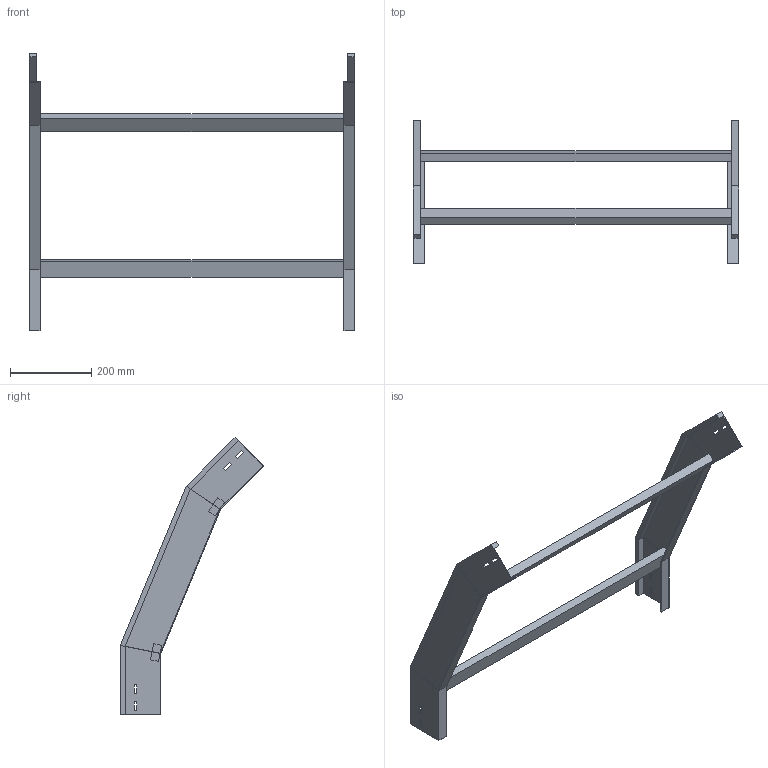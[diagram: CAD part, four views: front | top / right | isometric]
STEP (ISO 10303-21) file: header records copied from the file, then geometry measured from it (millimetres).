
FILE_DESCRIPTION (( 'STEP AP214' ), '1' );
FILE_NAME ('34B5D800.step', '2025-02-21T14:51:16', ( '' ), ( '' ), 'SwSTEP 2.0', 'SolidWorks 2023', '' );
FILE_SCHEMA (( 'AUTOMOTIVE_DESIGN' ));
Length unit declared in the file: millimetre
Products named in the file (3): 34B5D800; TRAVERSINO_800; LONGH.DISCESA_45°_H100_R500
Assembly tree (5 placements, depth 2):
  34B5D800
    LONGH.DISCESA_45°_H100_R500  x2
    TRAVERSINO_800  x3
Bounding box: 800 x 352.63 x 680.62 mm (x, y, z)
Volume: 2580300.3 mm3; surface area: 705813.4 mm2
Topology: 5 solids, 5 shells, 102 faces, 244 edges, 152 vertices
Faces by surface type: plane 102
Entity records: 1480 total; most frequent: CARTESIAN_POINT 244, ORIENTED_EDGE 232, DIRECTION 228, VECTOR 116, EDGE_CURVE 116, LINE 116, VERTEX_POINT 72, EDGE_LOOP 56
